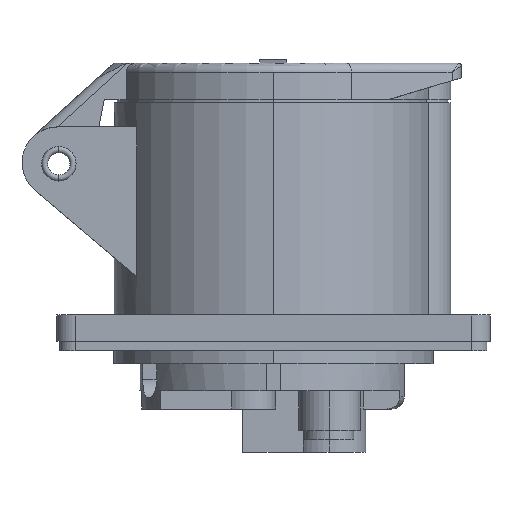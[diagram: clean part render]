
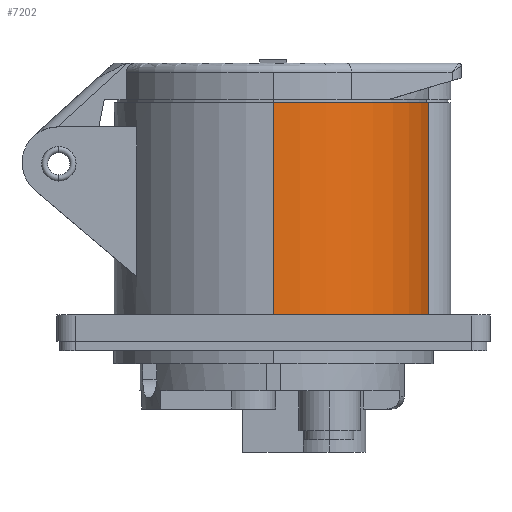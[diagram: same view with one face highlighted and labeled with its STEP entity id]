
A CAD part, left-side view. The second image highlights one B-rep face of the part: STEP entity #7202.
In plain terms, the highlighted cylindrical face has radius 25.9 mm (diameter 51.8 mm), a partial arc.
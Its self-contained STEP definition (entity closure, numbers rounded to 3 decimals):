
#949 = CARTESIAN_POINT ( 'NONE',  ( 0., 0., 38.8 ) ) ;
#950 = DIRECTION ( 'NONE',  ( 0., 0., -1. ) ) ;
#951 = DIRECTION ( 'NONE',  ( -1., 0., 0. ) ) ;
#1164 = LINE ( 'NONE', #1165, #11967 ) ;
#1165 = CARTESIAN_POINT ( 'NONE',  ( -5.5, -25.309, 38.8 ) ) ;
#1166 = DIRECTION ( 'NONE',  ( 0., 0., -1. ) ) ;
#1262 = CARTESIAN_POINT ( 'NONE',  ( 0., 0., 4.3 ) ) ;
#1267 = DIRECTION ( 'NONE',  ( 0., 0., 1. ) ) ;
#1269 = DIRECTION ( 'NONE',  ( 1., 0., 0. ) ) ;
#1270 = CARTESIAN_POINT ( 'NONE',  ( 0., 0., 38.8 ) ) ;
#1272 = DIRECTION ( 'NONE',  ( 0., 0., 1. ) ) ;
#1273 = DIRECTION ( 'NONE',  ( 1., 0., 0. ) ) ;
#1280 = LINE ( 'NONE', #1282, #8635 ) ;
#1282 = CARTESIAN_POINT ( 'NONE',  ( -25.9, 0., 38.8 ) ) ;
#1283 = DIRECTION ( 'NONE',  ( 0., 0., -1. ) ) ;
#3141 = CARTESIAN_POINT ( 'NONE',  ( -5.5, -25.309, 4.3 ) ) ;
#3143 = CARTESIAN_POINT ( 'NONE',  ( -5.5, -25.309, 38.8 ) ) ;
#3144 = CARTESIAN_POINT ( 'NONE',  ( -25.9, 0., 4.3 ) ) ;
#3147 = CARTESIAN_POINT ( 'NONE',  ( -25.9, 0., 38.8 ) ) ;
#6276 = VERTEX_POINT ( 'NONE', #3141 ) ;
#6278 = VERTEX_POINT ( 'NONE', #3143 ) ;
#6279 = VERTEX_POINT ( 'NONE', #3144 ) ;
#6282 = VERTEX_POINT ( 'NONE', #3147 ) ;
#7202 = ADVANCED_FACE ( 'NONE', ( #12218 ), #12211, .T. ) ;
#7271 = EDGE_CURVE ( 'NONE', #6278, #6276, #1164, .T. ) ;
#7490 = EDGE_LOOP ( 'NONE', ( #7730, #7728, #7729, #7712 ) ) ;
#7712 = ORIENTED_EDGE ( 'NONE', *, *, #7271, .F. ) ;
#7728 = ORIENTED_EDGE ( 'NONE', *, *, #11371, .T. ) ;
#7729 = ORIENTED_EDGE ( 'NONE', *, *, #11368, .T. ) ;
#7730 = ORIENTED_EDGE ( 'NONE', *, *, #11369, .F. ) ;
#8635 = VECTOR ( 'NONE', #1283, 1000. ) ;
#8637 = AXIS2_PLACEMENT_3D ( 'NONE', #1270, #1272, #1273 ) ;
#8641 = AXIS2_PLACEMENT_3D ( 'NONE', #1262, #1267, #1269 ) ;
#11368 = EDGE_CURVE ( 'NONE', #6279, #6276, #11785, .T. ) ;
#11369 = EDGE_CURVE ( 'NONE', #6282, #6278, #11786, .T. ) ;
#11371 = EDGE_CURVE ( 'NONE', #6282, #6279, #1280, .T. ) ;
#11785 = CIRCLE ( 'NONE', #8641, 25.9 ) ;
#11786 = CIRCLE ( 'NONE', #8637, 25.9 ) ;
#11967 = VECTOR ( 'NONE', #1166, 1000. ) ;
#12211 = CYLINDRICAL_SURFACE ( 'NONE', #12213, 25.9 ) ;
#12213 = AXIS2_PLACEMENT_3D ( 'NONE', #949, #950, #951 ) ;
#12218 = FACE_OUTER_BOUND ( 'NONE', #7490, .T. ) ;
